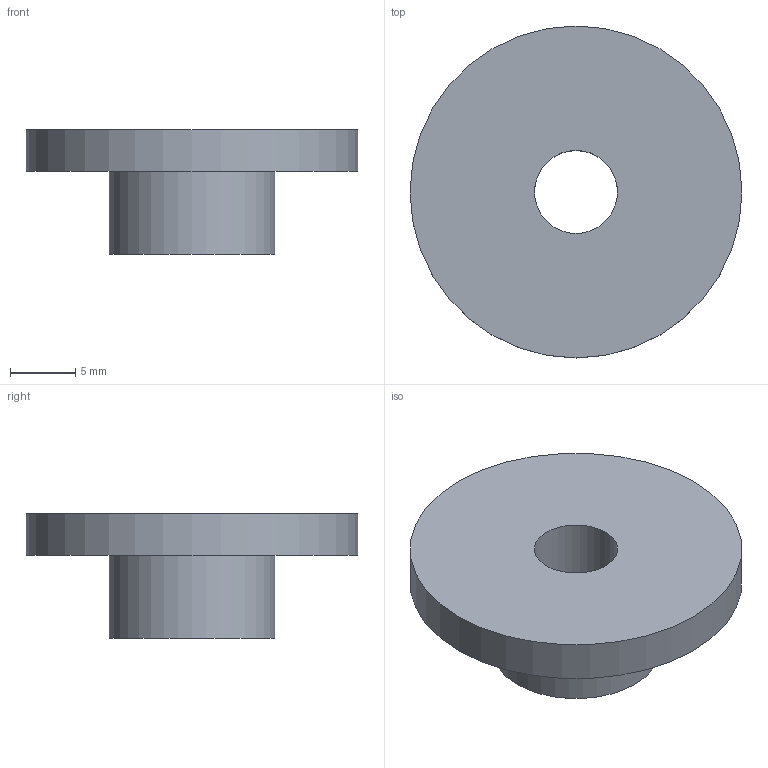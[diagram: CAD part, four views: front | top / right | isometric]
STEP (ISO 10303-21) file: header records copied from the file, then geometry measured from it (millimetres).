
FILE_DESCRIPTION((''),'2;1');
FILE_NAME('C:\REVIT SHARED FILES\STP\HG\HG-38.stp','2013-09-06T12:52:31',('rramoutar'),(''),'Autodesk Inventor 2012','Autodesk Inventor 2012','');
FILE_SCHEMA(('AUTOMOTIVE_DESIGN { 1 0 10303 214 1 1 1 1 }'));
Length unit declared in the file: inch
Products named in the file (1): HG-25
Bounding box: 25.4 x 25.4 x 9.53 mm (x, y, z)
Volume: 2111.5 mm3; surface area: 1646.8 mm2
Topology: 1 solids, 1 shells, 6 faces, 9 edges, 6 vertices
Faces by surface type: cylinder 3, plane 3
Full cylindrical faces by diameter (mm): 6.35 x1, 12.7 x1, 25.4 x1
Entity records: 156 total; most frequent: DIRECTION 26, CARTESIAN_POINT 19, AXIS2_PLACEMENT_3D 13, ORIENTED_EDGE 12, EDGE_LOOP 12, VERTEX_POINT 6, CIRCLE 6, EDGE_CURVE 6
